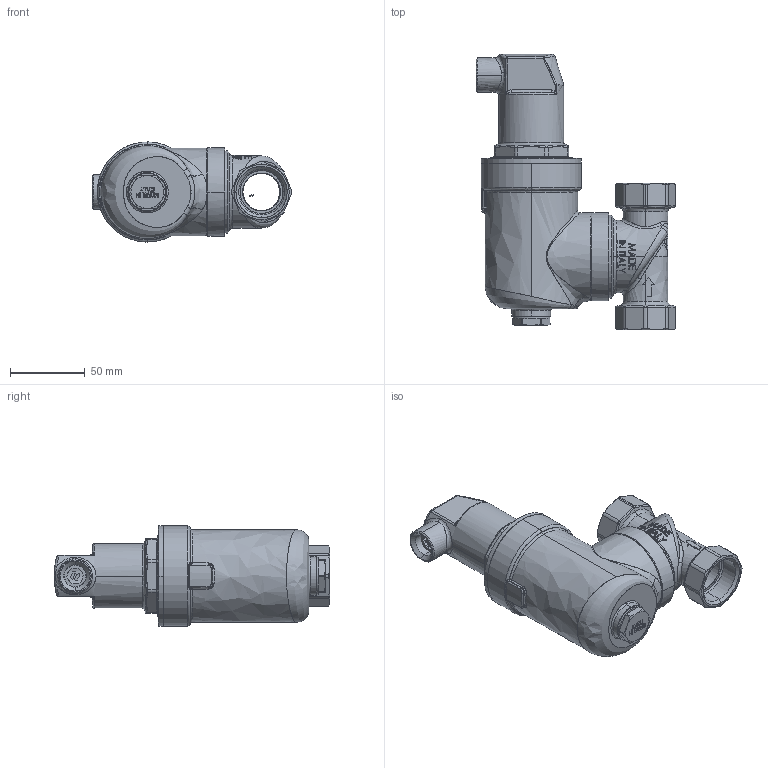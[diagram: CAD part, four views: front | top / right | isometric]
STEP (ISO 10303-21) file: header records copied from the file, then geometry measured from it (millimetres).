
FILE_DESCRIPTION (( 'STEP AP214' ), '1' );
FILE_NAME ('AAS_separator_powietrza_7726000_0_3D_AFRISO.STEP', '2025-07-10T09:33:46', ( '' ), ( '' ), 'SwSTEP 2.0', 'SolidWorks 2024', '' );
FILE_SCHEMA (( 'AUTOMOTIVE_DESIGN' ));
Length unit declared in the file: millimetre
Products named in the file (517): AAS260_42; AAS260_195; AAS260_86; AAS260_452; AAS260_3; AAS260_168; AAS260_110; AAS260_311; AAS260_420; AAS260_489; AAS260_181; AAS260_93; AAS260_291; AAS260_392; AAS260_444; AAS260_26; AAS260_160; AAS260_415; AAS260_131; AAS260_493; AAS260_34; AAS260_199; AAS260_252; AAS260_351; AAS_separator_powietrza_7726000_0_3D_AFRISO; AAS260_11; AAS260_174; AAS260_100; AAS260_430; AAS260_43; AAS260_301; AAS260_458; AAS260_155; AAS260_334; AAS260_413; AAS260_144; AAS260_219; AAS260_481; AAS260_514; AAS260_119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
Assembly tree (516 placements, depth 2):
  AAS_separator_powietrza_7726000_0_3D_AFRISO
    AAS260_1
    AAS260_2
    AAS260_3
    AAS260_4
    AAS260_5
    AAS260_6
    AAS260_7
    AAS260_8
    AAS260_9
    AAS260_10
    AAS260_11
    AAS260_12
    AAS260_13
    AAS260_14
    AAS260_15
    AAS260_16
    AAS260_17
    AAS260_18
    AAS260_19
    AAS260_20
    AAS260_21
    AAS260_22
    AAS260_23
    AAS260_24
    AAS260_25
    AAS260_26
    AAS260_27
    AAS260_28
    AAS260_29
    AAS260_30
    AAS260_31
    AAS260_32
    AAS260_33
    AAS260_34
    AAS260_35
    AAS260_36
    AAS260_37
    AAS260_38
    AAS260_39
    AAS260_40
    AAS260_41
    AAS260_42
    AAS260_43
    AAS260_44
    AAS260_45
    AAS260_46
    AAS260_47
    AAS260_48
    AAS260_49
    AAS260_50
    AAS260_51
    AAS260_52
    AAS260_53
    AAS260_54
    AAS260_55
    AAS260_56
    AAS260_57
    AAS260_58
    AAS260_59
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Bounding box: 133.82 x 184.5 x 67 mm (x, y, z)
Surface area: 59794.4 mm2 (no closed solid volume)
Topology: 0 solids, 516 shells, 516 faces, 2635 edges, 2622 vertices
Faces by surface type: bspline 328, plane 188
Entity records: 56036 total; most frequent: CARTESIAN_POINT 26272, DIRECTION 3728, EDGE_CURVE 2622, ORIENTED_EDGE 2622, VERTEX_POINT 2622, AXIS2_PLACEMENT_3D 1357, APPLICATION_CONTEXT 1034, APPLICATION_PROTOCOL_DEFINITION 1034
